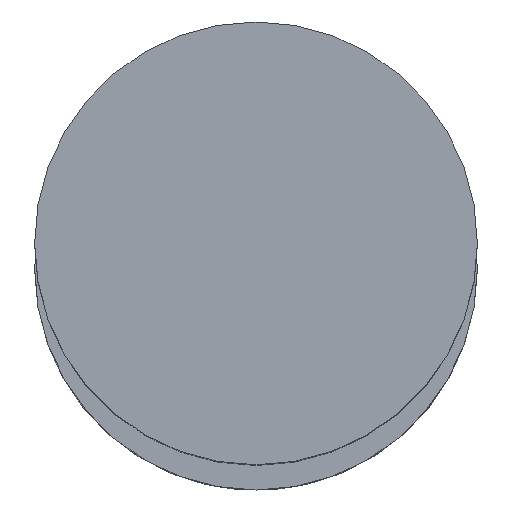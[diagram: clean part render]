
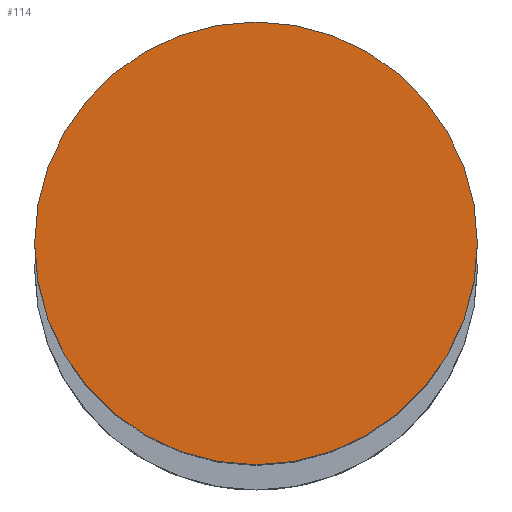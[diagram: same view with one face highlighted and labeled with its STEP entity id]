
A CAD part, top view. The second image highlights one B-rep face of the part: STEP entity #114.
In plain terms, the highlighted planar face has unit normal (0, 0, 1).
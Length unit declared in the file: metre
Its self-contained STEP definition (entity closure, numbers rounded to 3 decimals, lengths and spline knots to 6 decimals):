
#114=ADVANCED_FACE('0:129',(#220),#221,.T.);
#220=FACE_OUTER_BOUND('',#320,.T.);
#221=PLANE('',#321);
#320=EDGE_LOOP('',(#531,#532));
#321=AXIS2_PLACEMENT_3D('',#533,#534,#535);
#531=ORIENTED_EDGE('',*,*,#588,.F.);
#532=ORIENTED_EDGE('',*,*,#621,.F.);
#533=CARTESIAN_POINT('',(0.,0.,0.45));
#534=DIRECTION('',(0.0,0.0,1.0));
#535=DIRECTION('',(1.0,0.0,0.0));
#588=EDGE_CURVE('',#702,#698,#704,.F.);
#621=EDGE_CURVE('',#698,#702,#754,.F.);
#698=VERTEX_POINT('',#848);
#702=VERTEX_POINT('',#853);
#704=CIRCLE('',#856,0.008);
#754=CIRCLE('',#913,0.008);
#848=CARTESIAN_POINT('',(0.00789,0.000133,0.45));
#853=CARTESIAN_POINT('',(-0.00811,0.000133,0.45));
#856=AXIS2_PLACEMENT_3D('',#995,#996,#997);
#913=AXIS2_PLACEMENT_3D('',#1053,#1054,#1055);
#995=CARTESIAN_POINT('',(-0.00011,0.000133,0.45));
#996=DIRECTION('',(0.0,0.0,1.0));
#997=DIRECTION('',(1.0,0.0,0.0));
#1053=CARTESIAN_POINT('',(-0.00011,0.000133,0.45));
#1054=DIRECTION('',(0.0,0.0,1.0));
#1055=DIRECTION('',(1.0,0.0,0.0));
